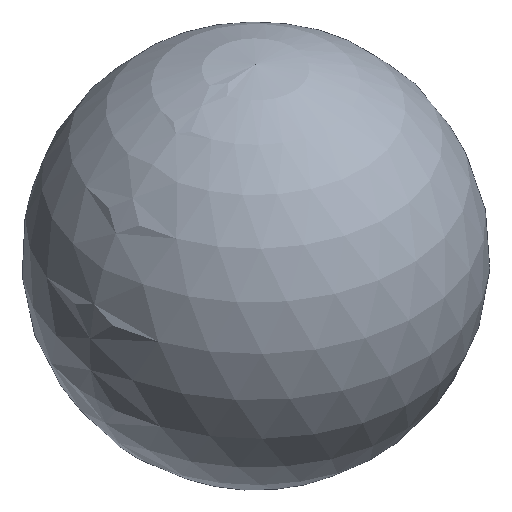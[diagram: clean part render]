
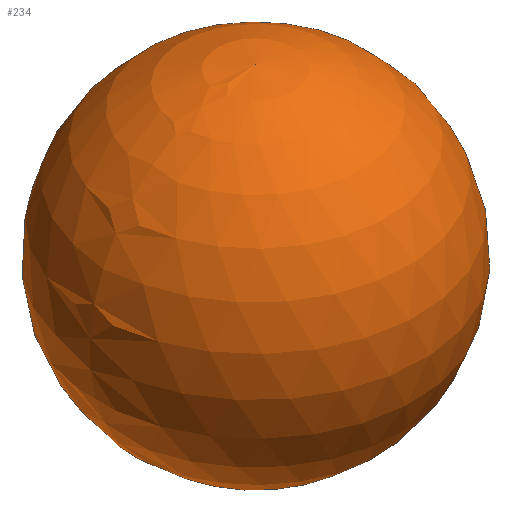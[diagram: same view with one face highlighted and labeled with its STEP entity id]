
A CAD part, isometric view. The second image highlights one B-rep face of the part: STEP entity #234.
In plain terms, the highlighted spherical face has radius 300 mm.
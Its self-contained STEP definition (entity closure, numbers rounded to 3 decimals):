
#20=SPHERICAL_SURFACE('',#298,300.);
#56=FACE_OUTER_BOUND('',#74,.T.);
#74=EDGE_LOOP('',(#214,#215,#216));
#109=CIRCLE('',#297,40.);
#110=CIRCLE('',#299,300.);
#128=VERTEX_POINT('',#453);
#129=VERTEX_POINT('',#457);
#157=EDGE_CURVE('',#128,#128,#109,.T.);
#158=EDGE_CURVE('',#129,#128,#110,.T.);
#214=ORIENTED_EDGE('',*,*,#157,.T.);
#215=ORIENTED_EDGE('',*,*,#158,.F.);
#216=ORIENTED_EDGE('',*,*,#158,.T.);
#234=ADVANCED_FACE('',(#56),#20,.T.);
#297=AXIS2_PLACEMENT_3D('',#455,#383,#384);
#298=AXIS2_PLACEMENT_3D('',#456,#385,#386);
#299=AXIS2_PLACEMENT_3D('',#458,#387,#388);
#383=DIRECTION('center_axis',(0.,0.,1.));
#384=DIRECTION('ref_axis',(1.,0.,0.));
#385=DIRECTION('center_axis',(0.,0.,1.));
#386=DIRECTION('ref_axis',(1.,0.,0.));
#387=DIRECTION('center_axis',(0.,-1.,0.));
#388=DIRECTION('ref_axis',(-1.,0.,0.));
#453=CARTESIAN_POINT('',(-40.,0.,0.));
#455=CARTESIAN_POINT('Origin',(0.,0.,0.));
#456=CARTESIAN_POINT('Origin',(0.,0.,297.321));
#457=CARTESIAN_POINT('',(0.,0.,597.321));
#458=CARTESIAN_POINT('Origin',(0.,0.,297.321));
